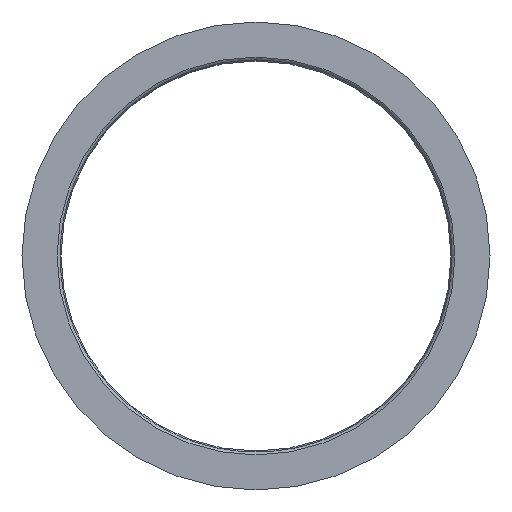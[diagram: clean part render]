
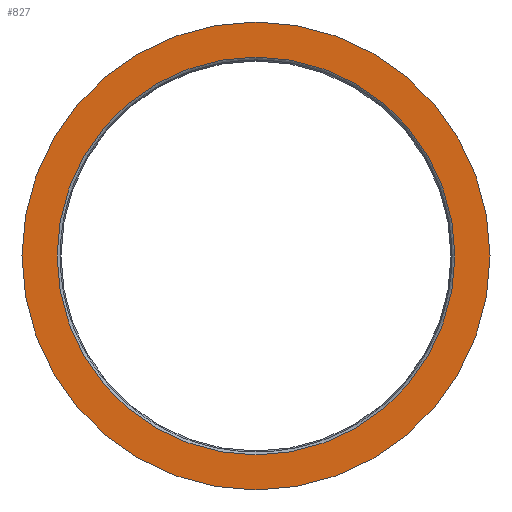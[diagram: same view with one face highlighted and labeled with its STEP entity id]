
A CAD part, left-side view. The second image highlights one B-rep face of the part: STEP entity #827.
In plain terms, the highlighted planar face has unit normal (-1, 0, 0).
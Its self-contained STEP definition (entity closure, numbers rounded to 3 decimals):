
#580=CARTESIAN_POINT('',(0.0,90.0,0.0));
#581=VERTEX_POINT('',#580);
#582=CARTESIAN_POINT('',(0.0,0.0,0.0));
#583=DIRECTION('',(1.0,0.0,0.0));
#584=DIRECTION('',(0.0,1.0,0.0));
#585=AXIS2_PLACEMENT_3D('',#582,#583,#584);
#586=CIRCLE('',#585,90.0);
#587=EDGE_CURVE('',#581,#581,#586,.T.);
#801=CARTESIAN_POINT('',(0.0,76.5,0.0));
#802=VERTEX_POINT('',#801);
#803=CARTESIAN_POINT('',(0.0,0.0,0.0));
#804=DIRECTION('',(1.0,0.0,0.0));
#805=DIRECTION('',(0.0,1.0,0.0));
#806=AXIS2_PLACEMENT_3D('',#803,#804,#805);
#807=CIRCLE('',#806,76.5);
#808=EDGE_CURVE('',#802,#802,#807,.T.);
#816=CARTESIAN_POINT('',(0.0,83.25,0.0));
#817=DIRECTION('',(-1.0,0.0,0.0));
#818=DIRECTION('',(0.0,0.0,1.0));
#819=AXIS2_PLACEMENT_3D('',#816,#817,#818);
#820=PLANE('',#819);
#821=ORIENTED_EDGE('',*,*,#587,.F.);
#822=EDGE_LOOP('',(#821));
#823=FACE_OUTER_BOUND('',#822,.T.);
#824=ORIENTED_EDGE('',*,*,#808,.T.);
#825=EDGE_LOOP('',(#824));
#826=FACE_BOUND('',#825,.T.);
#827=ADVANCED_FACE('',(#823,#826),#820,.T.);
